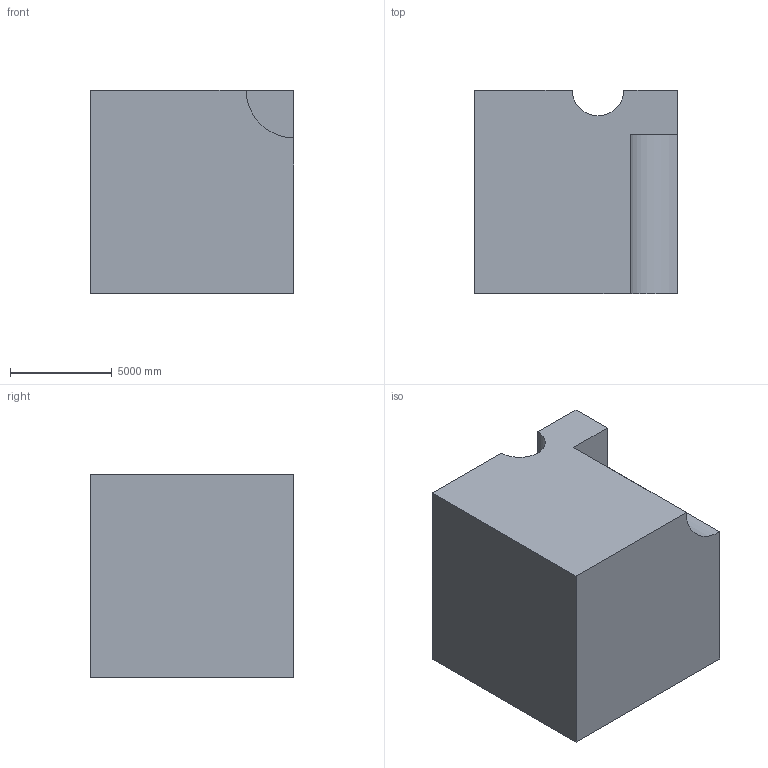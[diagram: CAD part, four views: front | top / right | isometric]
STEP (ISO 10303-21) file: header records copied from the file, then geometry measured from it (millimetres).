
FILE_DESCRIPTION (( 'STEP AP203' ), '1' );
FILE_NAME ('1126.STEP', '2022-08-18T12:51:49', ( 'user' ), ( '' ), 'SwSTEP 2.0', 'SolidWorks 2021', '' );
FILE_SCHEMA (( 'CONFIG_CONTROL_DESIGN' ));
Length unit declared in the file: centimetre
Products named in the file (1): 1126
Bounding box: 10000 x 10000 x 10000 mm (x, y, z)
Volume: 941180272866 mm3; surface area: 601570721.9 mm2
Topology: 1 solids, 1 shells, 10 faces, 24 edges, 16 vertices
Faces by surface type: plane 8, cylinder 2
Entity records: 369 total; most frequent: CARTESIAN_POINT 51, DIRECTION 50, ORIENTED_EDGE 48, EDGE_CURVE 24, LINE 20, VECTOR 20, VERTEX_POINT 16, AXIS2_PLACEMENT_3D 15
